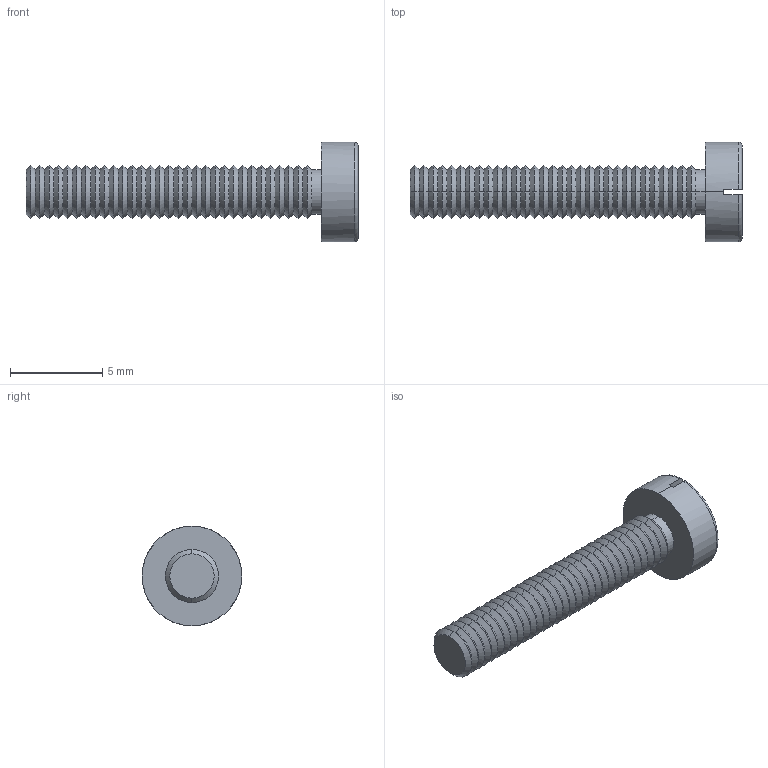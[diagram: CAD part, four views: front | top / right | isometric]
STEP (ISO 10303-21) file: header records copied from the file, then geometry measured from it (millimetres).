
FILE_DESCRIPTION (( 'STEP AP214' ), '1' );
FILE_NAME ('Metrico 3 x 18 PP63B.STEP', '2017-12-15T09:43:54', ( 'aaa' ), ( '' ), 'SwSTEP 2.0', 'SolidWorks 2013', '' );
FILE_SCHEMA (( 'AUTOMOTIVE_DESIGN' ));
Length unit declared in the file: millimetre
Products named in the file (1): Metrico 3 x 18 PP63B
Bounding box: 18 x 5.4 x 5.4 mm (x, y, z)
Volume: 131.4 mm3; surface area: 270.4 mm2
Topology: 1 solids, 1 shells, 137 faces, 278 edges, 144 vertices
Faces by surface type: cone 124, plane 7, cylinder 4, torus 2
Entity records: 3524 total; most frequent: DIRECTION 688, CARTESIAN_POINT 580, ORIENTED_EDGE 556, EDGE_CURVE 278, AXIS2_PLACEMENT_3D 276, VERTEX_POINT 144, EDGE_LOOP 138, CIRCLE 138
